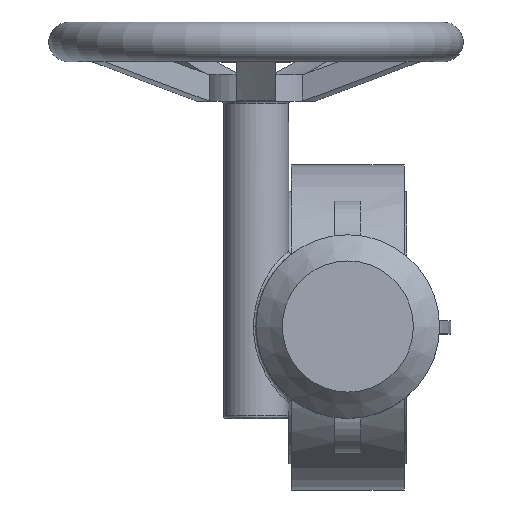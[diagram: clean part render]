
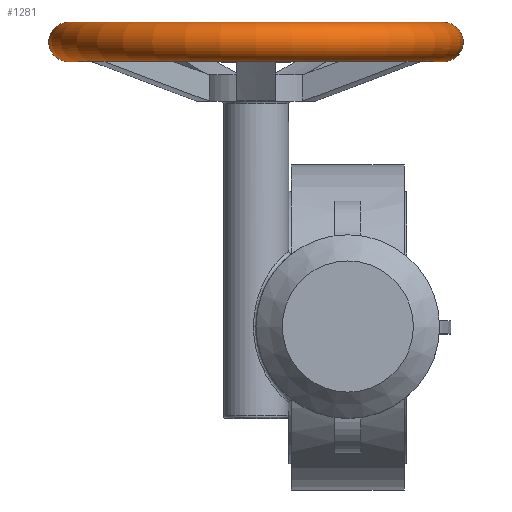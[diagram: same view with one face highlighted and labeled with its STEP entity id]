
A CAD part, top view. The second image highlights one B-rep face of the part: STEP entity #1281.
In plain terms, the highlighted toroidal (fillet/blend) face has major radius 71.5 mm and minor radius 7.5 mm.
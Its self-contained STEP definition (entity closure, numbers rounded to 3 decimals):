
#1281=ADVANCED_FACE('',(#3006,#3008),#3010,.T.);
#3006=FACE_OUTER_BOUND('',#3007,.T.);
#3007=EDGE_LOOP('',(#3626));
#3008=FACE_OUTER_BOUND('',#3009,.T.);
#3009=EDGE_LOOP('',(#3627));
#3010=TOROIDAL_SURFACE('',#3011,71.5,7.5);
#3011=AXIS2_PLACEMENT_3D('',#3012,#3013,#3014);
#3012=CARTESIAN_POINT('',(-35.,108.5,182.));
#3013=DIRECTION('',(0.,-1.,0.));
#3014=DIRECTION('',(0.,0.,1.));
#3626=ORIENTED_EDGE('',*,*,#3932,.T.);
#3627=ORIENTED_EDGE('',*,*,#3891,.F.);
#3891=EDGE_CURVE('',#4386,#4386,#4387,.T.);
#3932=EDGE_CURVE('',#4446,#4446,#4447,.T.);
#4386=VERTEX_POINT('',#6741);
#4387=CIRCLE('',#6742,71.5);
#4446=VERTEX_POINT('',#6990);
#4447=CIRCLE('',#6991,71.5);
#6741=CARTESIAN_POINT('',(-35.,101.,253.5));
#6742=AXIS2_PLACEMENT_3D('',#6743,#6744,#6745);
#6743=CARTESIAN_POINT('',(-35.,101.,182.));
#6744=DIRECTION('',(0.,-1.,0.));
#6745=DIRECTION('',(0.,0.,1.));
#6990=CARTESIAN_POINT('',(-35.,116.,253.5));
#6991=AXIS2_PLACEMENT_3D('',#6992,#6993,#6994);
#6992=CARTESIAN_POINT('',(-35.,116.,182.));
#6993=DIRECTION('',(0.,-1.,0.));
#6994=DIRECTION('',(0.,0.,1.));
